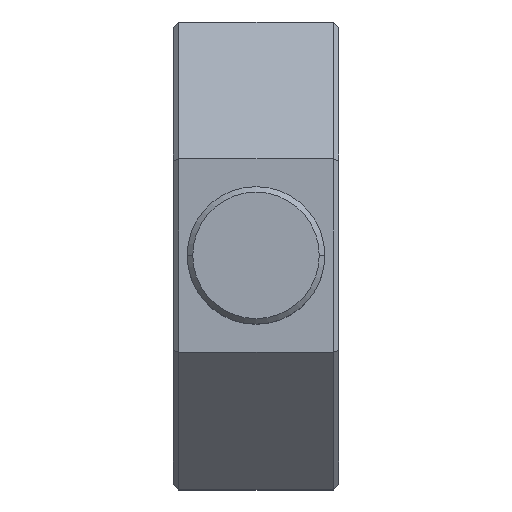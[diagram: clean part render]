
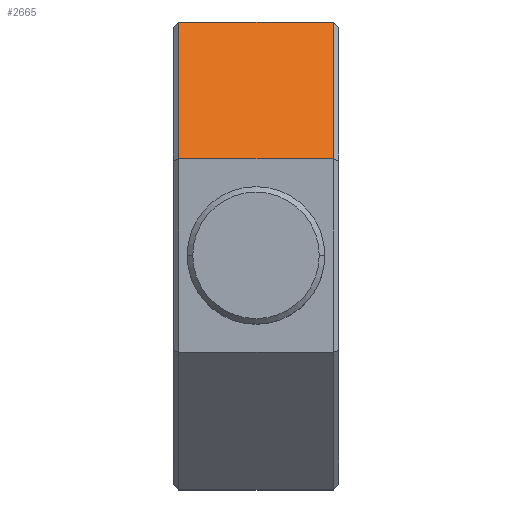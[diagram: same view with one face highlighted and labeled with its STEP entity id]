
A CAD part, top view. The second image highlights one B-rep face of the part: STEP entity #2665.
In plain terms, the highlighted planar face has unit normal (0, 0.707, 0.707).
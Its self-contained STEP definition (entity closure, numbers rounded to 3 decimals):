
#93 = CARTESIAN_POINT ( 'NONE',  ( 14., 42.5, 17.604 ) ) ;
#111 = EDGE_LOOP ( 'NONE', ( #1086, #948, #1941, #2002 ) ) ;
#133 = LINE ( 'NONE', #548, #2071 ) ;
#237 = CARTESIAN_POINT ( 'NONE',  ( 14., 42.5, 17.604 ) ) ;
#306 = EDGE_CURVE ( 'NONE', #399, #2585, #2825, .T. ) ;
#314 = VERTEX_POINT ( 'NONE', #1691 ) ;
#399 = VERTEX_POINT ( 'NONE', #897 ) ;
#540 = CARTESIAN_POINT ( 'NONE',  ( -15., 42.5, 17.604 ) ) ;
#548 = CARTESIAN_POINT ( 'NONE',  ( -14., 17.604, 42.5 ) ) ;
#625 = LINE ( 'NONE', #1527, #721 ) ;
#721 = VECTOR ( 'NONE', #2029, 1000. ) ;
#780 = FACE_OUTER_BOUND ( 'NONE', #111, .T. ) ;
#803 = CARTESIAN_POINT ( 'NONE',  ( -14., 42.5, 17.604 ) ) ;
#897 = CARTESIAN_POINT ( 'NONE',  ( 14., 17.604, 42.5 ) ) ;
#948 = ORIENTED_EDGE ( 'NONE', *, *, #306, .T. ) ;
#1017 = DIRECTION ( 'NONE',  ( 0., 0.707, 0.707 ) ) ;
#1086 = ORIENTED_EDGE ( 'NONE', *, *, #2444, .T. ) ;
#1193 = DIRECTION ( 'NONE',  ( 0., 0.707, -0.707 ) ) ;
#1375 = VERTEX_POINT ( 'NONE', #803 ) ;
#1448 = DIRECTION ( 'NONE',  ( 0., -0.707, 0.707 ) ) ;
#1527 = CARTESIAN_POINT ( 'NONE',  ( -15., 17.604, 42.5 ) ) ;
#1581 = VECTOR ( 'NONE', #1193, 1000. ) ;
#1591 = VECTOR ( 'NONE', #2827, 1000. ) ;
#1674 = PLANE ( 'NONE',  #2557 ) ;
#1691 = CARTESIAN_POINT ( 'NONE',  ( -14., 17.604, 42.5 ) ) ;
#1888 = EDGE_CURVE ( 'NONE', #1375, #314, #133, .T. ) ;
#1908 = DIRECTION ( 'NONE',  ( 0., -0.707, 0.707 ) ) ;
#1917 = LINE ( 'NONE', #540, #1591 ) ;
#1941 = ORIENTED_EDGE ( 'NONE', *, *, #2639, .F. ) ;
#2002 = ORIENTED_EDGE ( 'NONE', *, *, #1888, .T. ) ;
#2029 = DIRECTION ( 'NONE',  ( 1., 0., 0. ) ) ;
#2071 = VECTOR ( 'NONE', #1908, 1000. ) ;
#2444 = EDGE_CURVE ( 'NONE', #314, #399, #625, .T. ) ;
#2557 = AXIS2_PLACEMENT_3D ( 'NONE', #2601, #1017, #1448 ) ;
#2585 = VERTEX_POINT ( 'NONE', #237 ) ;
#2601 = CARTESIAN_POINT ( 'NONE',  ( -15., 42.5, 17.604 ) ) ;
#2639 = EDGE_CURVE ( 'NONE', #1375, #2585, #1917, .T. ) ;
#2665 = ADVANCED_FACE ( 'NONE', ( #780 ), #1674, .T. ) ;
#2825 = LINE ( 'NONE', #93, #1581 ) ;
#2827 = DIRECTION ( 'NONE',  ( 1., 0., 0. ) ) ;
